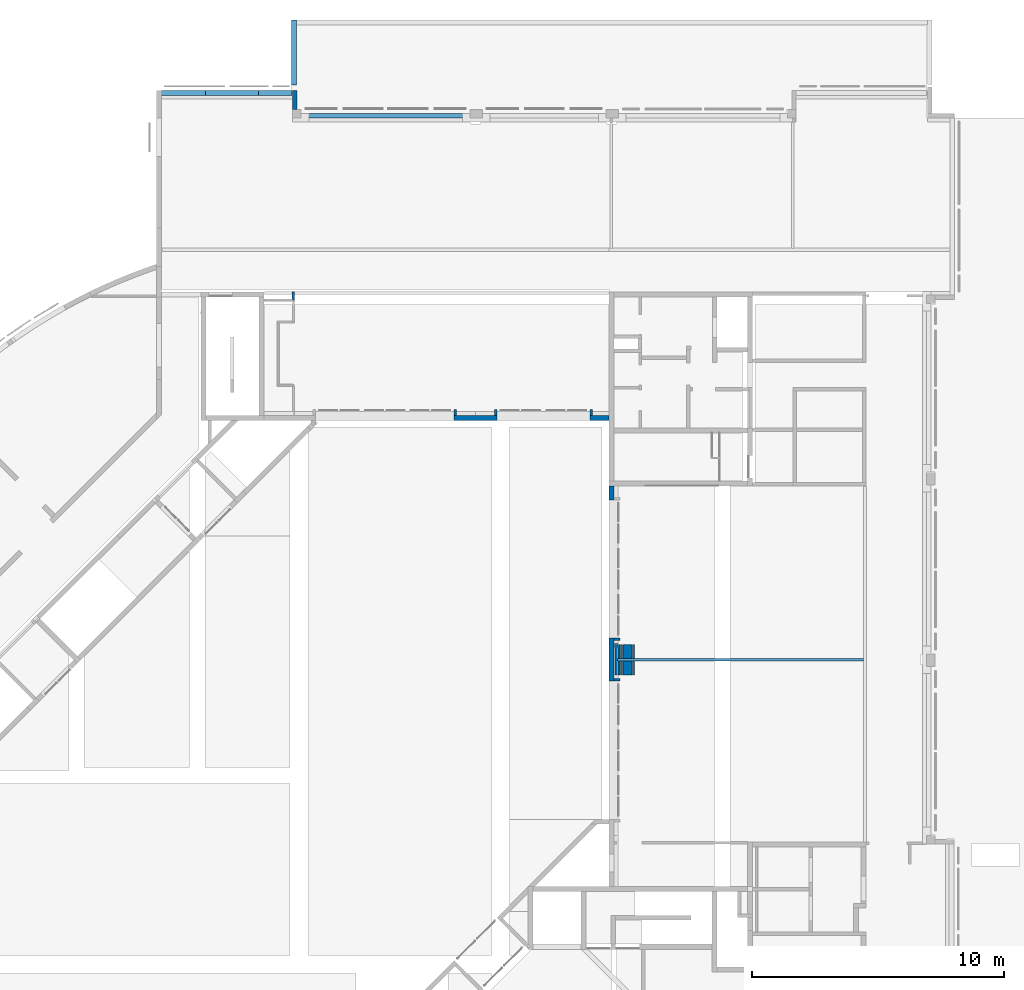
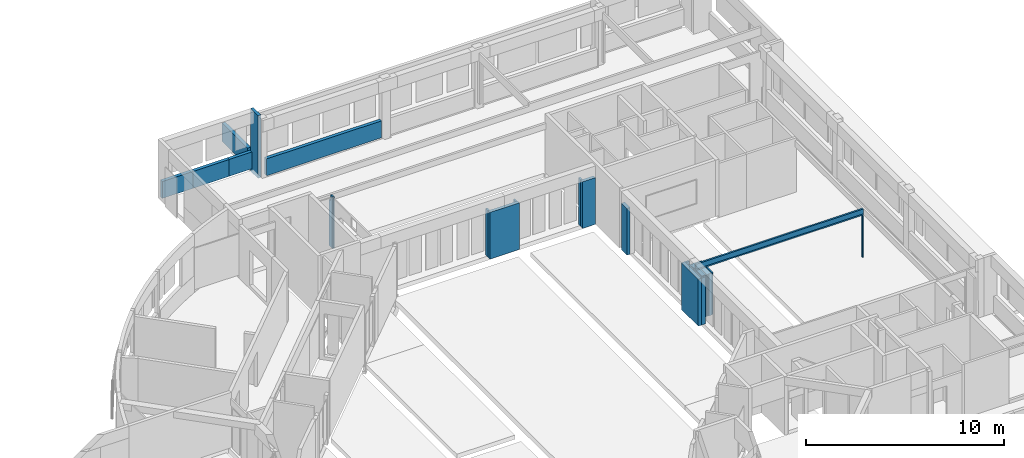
# One storey, part 20 of 30: 18 walls.
"""IFC4X3_ADD2 building model written with IfcOpenShell, lengths in millimetres."""

from ifc_helpers import new_model, si_unit, point, direction, frame, frame_2d, origin_with_axes, origin_2d_with_axis, place, context, subcontext, project, spatial, polyline, circle_curve, trimmed, segment, composite_curve, rectangle, outline, extrude, source, transform, mapped, material, type_object, type_shapes, element, save


model = new_model("IFC4X3_ADD2")

# Units and contexts
model_context = context("Model", 3, precision=1e-05, world=origin_with_axes(), true_north=direction((0.0, 1.0)))
body_context = subcontext(model_context, "Body", "Model", "MODEL_VIEW")
ifc_project = project(units=[si_unit("LENGTHUNIT", "METRE", prefix="MILLI"), si_unit("AREAUNIT", "SQUARE_METRE"), si_unit("VOLUMEUNIT", "CUBIC_METRE"), si_unit("PLANEANGLEUNIT", "RADIAN"), si_unit("TIMEUNIT", "SECOND"), si_unit("MASSUNIT", "GRAM")], contexts=[model_context])

# Site, building, storey
site_placement = place(None, origin_with_axes())
site = spatial("IfcSite", under=ifc_project, at=site_placement, Name="Site", CompositionType="ELEMENT")
building_placement = place(site_placement, origin_with_axes())
building = spatial("IfcBuilding", under=site, at=building_placement, Name="IFC Building Story")
storey_placement = place(building_placement, origin_with_axes())
storey = spatial("IfcBuildingStorey", under=building, at=storey_placement, Name="000", Elevation=0.0)

# Walls
ifc_material_1 = material(Name="BB_Beton_Bestaand")
wall_type_1 = type_object("IfcWallType", Name="BB_Beton_Bestaand 190", PredefinedType="NOTDEFINED", material=ifc_material_1)
wall_1_placement = place(storey_placement, origin_with_axes())
element("IfcWall", 1, at=wall_1_placement, inside=storey, type_object=wall_type_1, Name="Basic Wall:BB_XX_Wand uit beton, 190 mm", ObjectType="Basic Wall:BB_XX_Wand uit beton, 190 mm", PredefinedType="SOLIDWALL", context=body_context, shape_type="SweptSolid", body=[
    extrude(rectangle(XDim=1785.000000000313, YDim=189.9999999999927, at=origin_2d_with_axis()), frame((-29612.49999999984, 51600.0, -200.0), z_axis=(0.0, 0.0, 1.0), x_axis=(1.0, 0.0, 0.0)), (0.0, 0.0, 1.0), 1040.0),
])
wall_2_placement = place(storey_placement, origin_with_axes())
element("IfcWall", 2, at=wall_2_placement, inside=storey, type_object=wall_type_1, Name="Basic Wall:BB_XX_Wand uit beton, 190 mm", ObjectType="Basic Wall:BB_XX_Wand uit beton, 190 mm", PredefinedType="SOLIDWALL", context=body_context, shape_type="SweptSolid", body=[
    extrude(rectangle(XDim=6710.000000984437, YDim=189.9999999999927, at=origin_2d_with_axis()), frame((-21599.99999950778, 50700.0, -200.0), z_axis=(0.0, 0.0, 1.0), x_axis=(1.0, 0.0, 0.0)), (0.0, 0.0, 1.0), 1040.0),
])
wall_3_placement = place(storey_placement, origin_with_axes())
element("IfcWall", 3, at=wall_3_placement, inside=storey, type_object=wall_type_1, Name="Basic Wall:BB_XX_Wand uit beton, 190 mm", ObjectType="Basic Wall:BB_XX_Wand uit beton, 190 mm", PredefinedType="SOLIDWALL", context=body_context, shape_type="SweptSolid", body=[
    extrude(rectangle(XDim=1710.0, YDim=190.0, at=origin_2d_with_axis()), frame((-18000.0, 38699.9959341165, -200.0), z_axis=(0.0, 0.0, 1.0), x_axis=(1.0, 0.0, 0.0)), (0.0, 0.0, 1.0), 2880.0),
])
wall_4_placement = place(storey_placement, origin_with_axes())
element("IfcWall", 4, at=wall_4_placement, inside=storey, type_object=wall_type_1, Name="Basic Wall:BB_XX_Wand uit beton, 190 mm", ObjectType="Basic Wall:BB_XX_Wand uit beton, 190 mm", PredefinedType="SOLIDWALL", context=body_context, shape_type="SweptSolid", body=[
    extrude(rectangle(XDim=754.9959341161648, YDim=190.0, at=origin_2d_with_axis()), frame((-13077.50203294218, 38699.9959341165, -200.0), z_axis=(0.0, 0.0, 1.0), x_axis=(1.0, 0.0, 0.0)), (0.0, 0.0, 1.0), 2880.0),
])
wall_5_placement = place(storey_placement, origin_with_axes())
element("IfcWall", 5, at=wall_5_placement, inside=storey, type_object=wall_type_1, Name="Basic Wall:BB_XX_Wand uit beton, 190 mm", ObjectType="Basic Wall:BB_XX_Wand uit beton, 190 mm", PredefinedType="SOLIDWALL", context=body_context, shape_type="SweptSolid", body=[
    extrude(rectangle(XDim=554.9999999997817, YDim=190.0, at=frame_2d((0.0, 0.0), x_axis=(0.0, 1.0))), frame((-12600.0040658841, 35722.50000000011, -200.0), z_axis=(0.0, 0.0, 1.0), x_axis=(1.0, 0.0, 0.0)), (0.0, 0.0, 1.0), 2880.0),
])
wall_6_placement = place(storey_placement, origin_with_axes())
element("IfcWall", 6, at=wall_6_placement, inside=storey, type_object=wall_type_1, Name="Basic Wall:BB_XX_Wand uit beton, 190 mm", ObjectType="Basic Wall:BB_XX_Wand uit beton, 190 mm", PredefinedType="SOLIDWALL", context=body_context, shape_type="SweptSolid", body=[
    extrude(rectangle(XDim=1709.999999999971, YDim=190.0, at=frame_2d((0.0, 0.0), x_axis=(0.0, 1.0))), frame((-12600.0040658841, 29100.00000000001, -200.0), z_axis=(0.0, 0.0, 1.0), x_axis=(1.0, 0.0, 0.0)), (0.0, 0.0, 1.0), 2880.0),
])
wall_7_placement = place(storey_placement, origin_with_axes())
element("IfcWall", 7, at=wall_7_placement, inside=storey, type_object=wall_type_1, Name="Basic Wall:BB_XX_Wand uit beton, 190 mm", ObjectType="Basic Wall:BB_XX_Wand uit beton, 190 mm", PredefinedType="SOLIDWALL", context=body_context, shape_type="SweptSolid", body=[
    extrude(rectangle(XDim=2105.000000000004, YDim=189.9999999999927, at=origin_2d_with_axis()), frame((-27667.5, 51600.0, -200.0), z_axis=(0.0, 0.0, 1.0), x_axis=(1.0, 0.0, 0.0)), (0.0, 0.0, 1.0), 1040.0),
])
wall_8_placement = place(storey_placement, origin_with_axes())
element("IfcWall", 8, at=wall_8_placement, inside=storey, type_object=wall_type_1, Name="Basic Wall:BB_XX_Wand uit beton, 190 mm", ObjectType="Basic Wall:BB_XX_Wand uit beton, 190 mm", PredefinedType="SOLIDWALL", context=body_context, shape_type="SweptSolid", body=[
    extrude(rectangle(XDim=1319.999999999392, YDim=189.9999999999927, at=origin_2d_with_axis()), frame((-25955.0000000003, 51600.0, -200.0), z_axis=(0.0, 0.0, 1.0), x_axis=(1.0, 0.0, 0.0)), (0.0, 0.0, 1.0), 1040.0),
])
wall_9_placement = place(storey_placement, origin_with_axes())
element("IfcWall", 9, at=wall_9_placement, inside=storey, type_object=wall_type_1, Name="Basic Wall:BB_XX_Wand uit beton, 190 mm", ObjectType="Basic Wall:BB_XX_Wand uit beton, 190 mm", PredefinedType="SOLIDWALL", context=body_context, shape_type="SweptSolid", body=[
    extrude(rectangle(XDim=2574.931229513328, YDim=190.0, at=frame_2d((0.0, 0.0), x_axis=(0.0, 1.0))), frame((-25205.0, 53212.46561475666, -320.0), z_axis=(0.0, 0.0, 1.0), x_axis=(1.0, 0.0, 0.0)), (0.0, 0.0, 1.0), 1140.0),
])
wall_type_2 = type_object("IfcWallType", Name="BB_Beton_Bestaand 170", PredefinedType="NOTDEFINED", material=ifc_material_1)
wall_10_placement = place(storey_placement, origin_with_axes())
element("IfcWall", 10, at=wall_10_placement, inside=storey, type_object=wall_type_2, Name="Basic Wall:BB_XX_Wand uit beton, 170 mm", ObjectType="Basic Wall:BB_XX_Wand uit beton, 170 mm", PredefinedType="SOLIDWALL", context=body_context, shape_type="SweptSolid", body=[
    extrude(rectangle(XDim=750.0000000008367, YDim=169.9999999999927, at=frame_2d((0.0, 0.0), x_axis=(0.0, 1.0))), frame((-25175.0, 51319.99999999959, -460.0), z_axis=(0.0, 0.0, 1.0), x_axis=(1.0, 0.0, 0.0)), (0.0, 0.0, 1.0), 3860.0),
])
wall_type_3 = type_object("IfcWallType", Name="Basic Wall_BB_10.01.41#03_Gipskartonwand_43dB_MS100 _ 25.50.25_ 100 mm17", PredefinedType="NOTDEFINED")
shared_shape_1 = source(origin_with_axes(), body_context, "Body", "SweptSolid", [
    extrude(rectangle(XDim=240.000000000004, YDim=12.50000000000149, at=origin_2d_with_axis()), frame((120.0, 43.75000000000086, 0.0), z_axis=(0.0, 0.0, 1.0), x_axis=(1.0, 0.0, 0.0)), (0.0, 0.0, 1.0), 2880.0),
    extrude(rectangle(XDim=240.000000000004, YDim=12.50000000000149, at=origin_2d_with_axis()), frame((120.0, 31.24999999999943, 0.0), z_axis=(0.0, 0.0, 1.0), x_axis=(1.0, 0.0, 0.0)), (0.0, 0.0, 1.0), 2880.0),
    extrude(rectangle(XDim=240.000000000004, YDim=49.9999999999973, at=origin_2d_with_axis()), frame((119.999999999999, 0.0, 0.0), z_axis=(0.0, 0.0, 1.0), x_axis=(1.0, 0.0, 0.0)), (0.0, 0.0, 1.0), 2880.0),
    extrude(rectangle(XDim=240.000000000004, YDim=12.50000000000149, at=origin_2d_with_axis()), frame((120.0, -31.24999999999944, 0.0), z_axis=(0.0, 0.0, 1.0), x_axis=(1.0, 0.0, 0.0)), (0.0, 0.0, 1.0), 2880.0),
    extrude(rectangle(XDim=240.000000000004, YDim=12.49999999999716, at=origin_2d_with_axis()), frame((119.999999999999, -43.7499999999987, 0.0), z_axis=(0.0, 0.0, 1.0), x_axis=(1.0, 0.0, 0.0)), (0.0, 0.0, 1.0), 2880.0),
])
type_shapes(wall_type_3, [shared_shape_1])
wall_11_placement = place(storey_placement, frame((-12265.0040658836, 28295.0, -200.0), z_axis=(0.0, 0.0, 1.0), x_axis=(-1.0, 0.0, 0.0)))
element("IfcWall", 11, at=wall_11_placement, inside=storey, type_object=wall_type_3, Name="Basic Wall:BB_10.01.41#03_Gipskartonwand_43dB_MS100 / 25.50.25, 100 mm", ObjectType="Basic Wall:BB_10.01.41#03_Gipskartonwand_43dB_MS100 / 25.50.25, 100 mm", PredefinedType="PARTITIONING", context=body_context, shape_type="MappedRepresentation", body=[
    mapped(shared_shape_1, transform((0.0, 0.0, 0.0))),
])
wall_type_4 = type_object("IfcWallType", Name="Basic Wall_BB_10.01.41#03_Gipskartonwand_43dB_MS100 _ 25.50.25_ 100 mm19", PredefinedType="NOTDEFINED")
shared_shape_2 = source(origin_with_axes(), body_context, "Body", "SweptSolid", [
    extrude(rectangle(XDim=240.000000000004, YDim=12.49999999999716, at=origin_2d_with_axis()), frame((119.999999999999, -43.7499999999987, 0.0), z_axis=(0.0, 0.0, 1.0), x_axis=(1.0, 0.0, 0.0)), (0.0, 0.0, 1.0), 2880.0),
    extrude(rectangle(XDim=240.000000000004, YDim=12.50000000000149, at=origin_2d_with_axis()), frame((120.0, -31.24999999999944, 0.0), z_axis=(0.0, 0.0, 1.0), x_axis=(1.0, 0.0, 0.0)), (0.0, 0.0, 1.0), 2880.0),
    extrude(rectangle(XDim=240.000000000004, YDim=49.9999999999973, at=origin_2d_with_axis()), frame((119.999999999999, 0.0, 0.0), z_axis=(0.0, 0.0, 1.0), x_axis=(1.0, 0.0, 0.0)), (0.0, 0.0, 1.0), 2880.0),
    extrude(rectangle(XDim=240.000000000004, YDim=12.50000000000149, at=origin_2d_with_axis()), frame((120.0, 31.24999999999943, 0.0), z_axis=(0.0, 0.0, 1.0), x_axis=(1.0, 0.0, 0.0)), (0.0, 0.0, 1.0), 2880.0),
    extrude(rectangle(XDim=240.000000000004, YDim=12.50000000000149, at=origin_2d_with_axis()), frame((120.0, 43.75000000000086, 0.0), z_axis=(0.0, 0.0, 1.0), x_axis=(1.0, 0.0, 0.0)), (0.0, 0.0, 1.0), 2880.0),
])
type_shapes(wall_type_4, [shared_shape_2])
wall_12_placement = place(storey_placement, frame((-12265.0040658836, 29905.0, -200.0), z_axis=(0.0, 0.0, 1.0), x_axis=(-1.0, 0.0, 0.0)))
element("IfcWall", 12, at=wall_12_placement, inside=storey, type_object=wall_type_4, Name="Basic Wall:BB_10.01.41#03_Gipskartonwand_43dB_MS100 / 25.50.25, 100 mm", ObjectType="Basic Wall:BB_10.01.41#03_Gipskartonwand_43dB_MS100 / 25.50.25, 100 mm", PredefinedType="PARTITIONING", context=body_context, shape_type="MappedRepresentation", body=[
    mapped(shared_shape_2, transform((0.0, 0.0, 0.0))),
])
wall_type_5 = type_object("IfcWallType", Name="Basic Wall_BB_10.01.41#03_Gipskartonwand_43dB_MS100 _ 25.50.25_ 100 mm23", PredefinedType="NOTDEFINED")
shared_shape_3 = source(origin_with_axes(), body_context, "Body", "SweptSolid", [
    extrude(rectangle(XDim=240.000000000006, YDim=12.49999999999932, at=origin_2d_with_axis()), frame((119.999999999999, -43.7499999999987, 0.0), z_axis=(0.0, 0.0, 1.0), x_axis=(1.0, 0.0, 0.0)), (0.0, 0.0, 1.0), 2880.0),
    extrude(rectangle(XDim=240.000000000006, YDim=12.49999999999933, at=origin_2d_with_axis()), frame((120.0, -31.24999999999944, 0.0), z_axis=(0.0, 0.0, 1.0), x_axis=(1.0, 0.0, 0.0)), (0.0, 0.0, 1.0), 2880.0),
    extrude(rectangle(XDim=240.000000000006, YDim=50.0000000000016, at=origin_2d_with_axis()), frame((119.999999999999, 0.0, 0.0), z_axis=(0.0, 0.0, 1.0), x_axis=(1.0, 0.0, 0.0)), (0.0, 0.0, 1.0), 2880.0),
    extrude(rectangle(XDim=240.000000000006, YDim=12.49999999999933, at=origin_2d_with_axis()), frame((120.0, 31.24999999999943, 0.0), z_axis=(0.0, 0.0, 1.0), x_axis=(1.0, 0.0, 0.0)), (0.0, 0.0, 1.0), 2880.0),
    extrude(rectangle(XDim=240.000000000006, YDim=12.49999999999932, at=origin_2d_with_axis()), frame((120.0, 43.75000000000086, 0.0), z_axis=(0.0, 0.0, 1.0), x_axis=(1.0, 0.0, 0.0)), (0.0, 0.0, 1.0), 2880.0),
])
type_shapes(wall_type_5, [shared_shape_3])
wall_13_placement = place(storey_placement, frame((-18805.0, 39034.9959341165, -200.0), z_axis=(0.0, 0.0, 1.0), x_axis=(0.0, -1.0, 0.0)))
element("IfcWall", 13, at=wall_13_placement, inside=storey, type_object=wall_type_5, Name="Basic Wall:BB_10.01.41#03_Gipskartonwand_43dB_MS100 / 25.50.25, 100 mm", ObjectType="Basic Wall:BB_10.01.41#03_Gipskartonwand_43dB_MS100 / 25.50.25, 100 mm", PredefinedType="PARTITIONING", context=body_context, shape_type="MappedRepresentation", body=[
    mapped(shared_shape_3, transform((0.0, 0.0, 0.0))),
])
wall_type_6 = type_object("IfcWallType", Name="Basic Wall_BB_10.01.41#03_Gipskartonwand_43dB_MS100 _ 25.50.25_ 100 mm27", PredefinedType="NOTDEFINED")
shared_shape_4 = source(origin_with_axes(), body_context, "Body", "SweptSolid", [
    extrude(rectangle(XDim=240.000000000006, YDim=12.49999999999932, at=origin_2d_with_axis()), frame((119.999999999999, -43.7499999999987, 0.0), z_axis=(0.0, 0.0, 1.0), x_axis=(1.0, 0.0, 0.0)), (0.0, 0.0, 1.0), 2880.0),
    extrude(rectangle(XDim=240.000000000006, YDim=12.49999999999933, at=origin_2d_with_axis()), frame((120.0, -31.24999999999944, 0.0), z_axis=(0.0, 0.0, 1.0), x_axis=(1.0, 0.0, 0.0)), (0.0, 0.0, 1.0), 2880.0),
    extrude(rectangle(XDim=240.000000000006, YDim=50.0000000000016, at=origin_2d_with_axis()), frame((119.999999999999, 0.0, 0.0), z_axis=(0.0, 0.0, 1.0), x_axis=(1.0, 0.0, 0.0)), (0.0, 0.0, 1.0), 2880.0),
    extrude(rectangle(XDim=240.000000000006, YDim=12.49999999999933, at=origin_2d_with_axis()), frame((120.0, 31.24999999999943, 0.0), z_axis=(0.0, 0.0, 1.0), x_axis=(1.0, 0.0, 0.0)), (0.0, 0.0, 1.0), 2880.0),
    extrude(rectangle(XDim=240.000000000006, YDim=12.49999999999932, at=origin_2d_with_axis()), frame((120.0, 43.75000000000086, 0.0), z_axis=(0.0, 0.0, 1.0), x_axis=(1.0, 0.0, 0.0)), (0.0, 0.0, 1.0), 2880.0),
])
type_shapes(wall_type_6, [shared_shape_4])
wall_14_placement = place(storey_placement, frame((-13405.0, 39034.9959341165, -200.0), z_axis=(0.0, 0.0, 1.0), x_axis=(0.0, -1.0, 0.0)))
element("IfcWall", 14, at=wall_14_placement, inside=storey, type_object=wall_type_6, Name="Basic Wall:BB_10.01.41#03_Gipskartonwand_43dB_MS100 / 25.50.25, 100 mm", ObjectType="Basic Wall:BB_10.01.41#03_Gipskartonwand_43dB_MS100 / 25.50.25, 100 mm", PredefinedType="PARTITIONING", context=body_context, shape_type="MappedRepresentation", body=[
    mapped(shared_shape_4, transform((0.0, 0.0, 0.0))),
])
wall_type_7 = type_object("IfcWallType", Name="Basic Wall_BB_10.01.41#03_Gipskartonwand_43dB_MS100 _ 25.50.25_ 100 mm29", PredefinedType="NOTDEFINED")
shared_shape_5 = source(origin_with_axes(), body_context, "Body", "SweptSolid", [
    extrude(rectangle(XDim=240.000000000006, YDim=12.49999999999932, at=origin_2d_with_axis()), frame((120.0, 43.75000000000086, 0.0), z_axis=(0.0, 0.0, 1.0), x_axis=(1.0, 0.0, 0.0)), (0.0, 0.0, 1.0), 2880.0),
    extrude(rectangle(XDim=240.000000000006, YDim=12.49999999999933, at=origin_2d_with_axis()), frame((120.0, 31.24999999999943, 0.0), z_axis=(0.0, 0.0, 1.0), x_axis=(1.0, 0.0, 0.0)), (0.0, 0.0, 1.0), 2880.0),
    extrude(rectangle(XDim=240.000000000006, YDim=50.0000000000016, at=origin_2d_with_axis()), frame((119.999999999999, 0.0, 0.0), z_axis=(0.0, 0.0, 1.0), x_axis=(1.0, 0.0, 0.0)), (0.0, 0.0, 1.0), 2880.0),
    extrude(rectangle(XDim=240.000000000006, YDim=12.49999999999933, at=origin_2d_with_axis()), frame((120.0, -31.24999999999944, 0.0), z_axis=(0.0, 0.0, 1.0), x_axis=(1.0, 0.0, 0.0)), (0.0, 0.0, 1.0), 2880.0),
    extrude(rectangle(XDim=240.000000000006, YDim=12.49999999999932, at=origin_2d_with_axis()), frame((119.999999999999, -43.7499999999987, 0.0), z_axis=(0.0, 0.0, 1.0), x_axis=(1.0, 0.0, 0.0)), (0.0, 0.0, 1.0), 2880.0),
])
type_shapes(wall_type_7, [shared_shape_5])
wall_15_placement = place(storey_placement, frame((-17195.0, 39034.9959341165, -200.0), z_axis=(0.0, 0.0, 1.0), x_axis=(0.0, -1.0, 0.0)))
element("IfcWall", 15, at=wall_15_placement, inside=storey, type_object=wall_type_7, Name="Basic Wall:BB_10.01.41#03_Gipskartonwand_43dB_MS100 / 25.50.25, 100 mm", ObjectType="Basic Wall:BB_10.01.41#03_Gipskartonwand_43dB_MS100 / 25.50.25, 100 mm", PredefinedType="PARTITIONING", context=body_context, shape_type="MappedRepresentation", body=[
    mapped(shared_shape_5, transform((0.0, 0.0, 0.0))),
])
ifc_material_2 = material(Name="BB_MDF")
wall_type_8 = type_object("IfcWallType", Name="BB_10.02.31_Verrolbare binnenwand_ lokaal K.00.503_ 20200211_GMO_XX_Geen", PredefinedType="NOTDEFINED")
shared_shape_6 = source(origin_with_axes(), body_context, "Body", "SweptSolid", [
    extrude(outline(composite_curve([segment(polyline([(43.99999999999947, 602.4999999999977), (43.99999999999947, -602.5000000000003)]), True, "CONTINUOUS"), segment(polyline([(43.99999999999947, -602.5000000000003), (24.00000000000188, -602.5000000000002)]), True, "CONTINUOUS"), segment(trimmed(circle_curve(frame_2d((3.254285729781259e-12, -586.8461538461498), x_axis=(1.0, 0.0)), 28.65384615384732), [point((24.00000000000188, -602.5000000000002))], [point((-23.99999999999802, -602.4999999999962))], False, "CARTESIAN"), True, "CONTINUOUS"), segment(polyline([(-23.99999999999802, -602.4999999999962), (-44.0, -602.5000000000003)]), True, "CONTINUOUS"), segment(polyline([(-44.0, -602.5000000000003), (-44.0, 602.4999999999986)]), True, "CONTINUOUS"), segment(polyline([(-44.0, 602.4999999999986), (-24.0, 602.4999999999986)]), True, "CONTINUOUS"), segment(trimmed(circle_curve(frame_2d((-2.629008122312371e-12, 618.1538461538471), x_axis=(1.0, 0.0)), 28.6538461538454), [point((-24.0, 602.4999999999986))], [point((23.99999999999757, 602.5000000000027))], True, "CARTESIAN"), True, "CONTINUOUS"), segment(polyline([(23.99999999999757, 602.5000000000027), (43.99999999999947, 602.4999999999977)]), True, "CONTINUOUS")], self_intersect=False)), frame((69.00000000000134, 615.4999999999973, 20.0), z_axis=(0.0, 0.0, 1.0), x_axis=(1.0, 0.0, 0.0)), (0.0, 0.0, 1.0), 2580.0),
    extrude(outline(polyline([(64.0, 84.0), (64.0, -76.0000000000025), (48.0, -75.99999999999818), (48.0, 67.99999999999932), (-48.0, 67.99999999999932), (-48.0, -75.99999999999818), (-64.00000000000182, -75.99999999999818), (-64.00000000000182, 84.0), (64.0, 84.0)])), frame((69.0, 1171.999999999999, 20.0), z_axis=(0.0, 0.0, 1.0), x_axis=(1.0, 0.0, 0.0)), (0.0, 0.0, 1.0), 2580.0),
    extrude(outline(polyline([(34.0, -44.00000000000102), (-26.0, -44.00000000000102), (-26.0, -28.0), (18.0, -28.0), (18.0, 28.0), (-26.0, 28.0), (-26.0, 44.0), (34.0, 44.0), (34.0, -44.00000000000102)])), frame((9851.0, 615.249999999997, 20.0), z_axis=(0.0, 0.0, 1.0), x_axis=(1.0, 0.0, 0.0)), (0.0, 0.0, 1.0), 2580.0),
    extrude(rectangle(XDim=9880.0, YDim=99.99999999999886, at=origin_2d_with_axis()), frame((4945.0, 615.2500000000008, 2620.0), z_axis=(0.0, 0.0, 1.0), x_axis=(1.0, 0.0, 0.0)), (0.0, 0.0, 1.0), 80.0),
    extrude(outline(composite_curve([segment(polyline([(43.99999999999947, 602.4999999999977), (43.99999999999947, -602.5000000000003)]), True, "CONTINUOUS"), segment(polyline([(43.99999999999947, -602.5000000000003), (24.00000000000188, -602.5000000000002)]), True, "CONTINUOUS"), segment(trimmed(circle_curve(frame_2d((3.254285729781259e-12, -586.8461538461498), x_axis=(1.0, 0.0)), 28.65384615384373), [point((24.00000000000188, -602.5000000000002))], [point((-23.99999999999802, -602.4999999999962))], False, "CARTESIAN"), True, "CONTINUOUS"), segment(polyline([(-23.99999999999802, -602.4999999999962), (-44.0, -602.5000000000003)]), True, "CONTINUOUS"), segment(polyline([(-44.0, -602.5000000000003), (-44.0, 602.4999999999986)]), True, "CONTINUOUS"), segment(polyline([(-44.0, 602.4999999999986), (-24.0, 602.4999999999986)]), True, "CONTINUOUS"), segment(trimmed(circle_curve(frame_2d((-2.629008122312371e-12, 618.1538461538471), x_axis=(1.0, 0.0)), 28.65384615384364), [point((-24.0, 602.4999999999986))], [point((23.99999999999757, 602.5000000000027))], True, "CARTESIAN"), True, "CONTINUOUS"), segment(polyline([(23.99999999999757, 602.5000000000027), (43.99999999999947, 602.4999999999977)]), True, "CONTINUOUS")], self_intersect=False)), frame((183.9999999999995, 615.5000000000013, 20.0), z_axis=(0.0, 0.0, 1.0), x_axis=(1.0, 0.0, 0.0)), (0.0, 0.0, 1.0), 2580.0),
    extrude(outline(composite_curve([segment(polyline([(43.99999999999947, 602.4999999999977), (43.99999999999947, -602.5000000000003)]), True, "CONTINUOUS"), segment(polyline([(43.99999999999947, -602.5000000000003), (24.00000000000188, -602.5000000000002)]), True, "CONTINUOUS"), segment(trimmed(circle_curve(frame_2d((3.254285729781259e-12, -586.8461538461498), x_axis=(1.0, 0.0)), 28.65384615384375), [point((24.00000000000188, -602.5000000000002))], [point((-23.99999999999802, -602.4999999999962))], False, "CARTESIAN"), True, "CONTINUOUS"), segment(polyline([(-23.99999999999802, -602.4999999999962), (-44.0, -602.5000000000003)]), True, "CONTINUOUS"), segment(polyline([(-44.0, -602.5000000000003), (-44.0, 602.4999999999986)]), True, "CONTINUOUS"), segment(polyline([(-44.0, 602.4999999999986), (-24.0, 602.4999999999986)]), True, "CONTINUOUS"), segment(trimmed(circle_curve(frame_2d((-2.629008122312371e-12, 618.1538461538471), x_axis=(1.0, 0.0)), 28.65384615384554), [point((-24.0, 602.4999999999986))], [point((23.99999999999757, 602.5000000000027))], True, "CARTESIAN"), True, "CONTINUOUS"), segment(polyline([(23.99999999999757, 602.5000000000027), (43.99999999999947, 602.4999999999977)]), True, "CONTINUOUS")], self_intersect=False)), frame((278.9999999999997, 615.5000000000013, 20.0), z_axis=(0.0, 0.0, 1.0), x_axis=(1.0, 0.0, 0.0)), (0.0, 0.0, 1.0), 2580.0),
    extrude(outline(composite_curve([segment(polyline([(43.99999999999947, 602.4999999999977), (43.99999999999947, -602.5000000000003)]), True, "CONTINUOUS"), segment(polyline([(43.99999999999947, -602.5000000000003), (24.00000000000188, -602.5000000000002)]), True, "CONTINUOUS"), segment(trimmed(circle_curve(frame_2d((3.254285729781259e-12, -586.8461538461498), x_axis=(1.0, 0.0)), 28.65384615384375), [point((24.00000000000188, -602.5000000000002))], [point((-23.99999999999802, -602.4999999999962))], False, "CARTESIAN"), True, "CONTINUOUS"), segment(polyline([(-23.99999999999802, -602.4999999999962), (-44.0, -602.5000000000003)]), True, "CONTINUOUS"), segment(polyline([(-44.0, -602.5000000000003), (-44.0, 602.4999999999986)]), True, "CONTINUOUS"), segment(polyline([(-44.0, 602.4999999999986), (-24.0, 602.4999999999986)]), True, "CONTINUOUS"), segment(trimmed(circle_curve(frame_2d((-2.629008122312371e-12, 618.1538461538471), x_axis=(1.0, 0.0)), 28.65384615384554), [point((-24.0, 602.4999999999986))], [point((23.99999999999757, 602.5000000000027))], True, "CARTESIAN"), True, "CONTINUOUS"), segment(polyline([(23.99999999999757, 602.5000000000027), (43.99999999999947, 602.4999999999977)]), True, "CONTINUOUS")], self_intersect=False)), frame((373.9999999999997, 615.5000000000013, 20.0), z_axis=(0.0, 0.0, 1.0), x_axis=(1.0, 0.0, 0.0)), (0.0, 0.0, 1.0), 2580.0),
    extrude(outline(composite_curve([segment(polyline([(43.99999999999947, 602.4999999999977), (43.99999999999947, -602.5000000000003)]), True, "CONTINUOUS"), segment(polyline([(43.99999999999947, -602.5000000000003), (24.00000000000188, -602.5000000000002)]), True, "CONTINUOUS"), segment(trimmed(circle_curve(frame_2d((3.254285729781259e-12, -586.8461538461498), x_axis=(1.0, 0.0)), 28.65384615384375), [point((24.00000000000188, -602.5000000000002))], [point((-23.99999999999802, -602.4999999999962))], False, "CARTESIAN"), True, "CONTINUOUS"), segment(polyline([(-23.99999999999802, -602.4999999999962), (-44.0, -602.5000000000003)]), True, "CONTINUOUS"), segment(polyline([(-44.0, -602.5000000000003), (-44.0, 602.4999999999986)]), True, "CONTINUOUS"), segment(polyline([(-44.0, 602.4999999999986), (-24.0, 602.4999999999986)]), True, "CONTINUOUS"), segment(trimmed(circle_curve(frame_2d((-2.629008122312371e-12, 618.1538461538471), x_axis=(1.0, 0.0)), 28.65384615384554), [point((-24.0, 602.4999999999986))], [point((23.99999999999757, 602.5000000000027))], True, "CARTESIAN"), True, "CONTINUOUS"), segment(polyline([(23.99999999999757, 602.5000000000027), (43.99999999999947, 602.4999999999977)]), True, "CONTINUOUS")], self_intersect=False)), frame((468.9999999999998, 615.5000000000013, 20.0), z_axis=(0.0, 0.0, 1.0), x_axis=(1.0, 0.0, 0.0)), (0.0, 0.0, 1.0), 2580.0),
    extrude(outline(composite_curve([segment(polyline([(43.99999999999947, 602.4999999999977), (43.99999999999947, -602.5000000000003)]), True, "CONTINUOUS"), segment(polyline([(43.99999999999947, -602.5000000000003), (24.00000000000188, -602.5000000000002)]), True, "CONTINUOUS"), segment(trimmed(circle_curve(frame_2d((3.254285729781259e-12, -586.8461538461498), x_axis=(1.0, 0.0)), 28.65384615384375), [point((24.00000000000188, -602.5000000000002))], [point((-23.99999999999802, -602.4999999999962))], False, "CARTESIAN"), True, "CONTINUOUS"), segment(polyline([(-23.99999999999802, -602.4999999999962), (-44.0, -602.5000000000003)]), True, "CONTINUOUS"), segment(polyline([(-44.0, -602.5000000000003), (-44.0, 602.4999999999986)]), True, "CONTINUOUS"), segment(polyline([(-44.0, 602.4999999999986), (-24.0, 602.4999999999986)]), True, "CONTINUOUS"), segment(trimmed(circle_curve(frame_2d((-2.629008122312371e-12, 618.1538461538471), x_axis=(1.0, 0.0)), 28.65384615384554), [point((-24.0, 602.4999999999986))], [point((23.99999999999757, 602.5000000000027))], True, "CARTESIAN"), True, "CONTINUOUS"), segment(polyline([(23.99999999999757, 602.5000000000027), (43.99999999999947, 602.4999999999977)]), True, "CONTINUOUS")], self_intersect=False)), frame((563.9999999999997, 615.5000000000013, 20.0), z_axis=(0.0, 0.0, 1.0), x_axis=(1.0, 0.0, 0.0)), (0.0, 0.0, 1.0), 2580.0),
    extrude(outline(composite_curve([segment(polyline([(43.99999999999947, 602.4999999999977), (43.99999999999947, -602.5000000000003)]), True, "CONTINUOUS"), segment(polyline([(43.99999999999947, -602.5000000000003), (24.00000000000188, -602.5000000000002)]), True, "CONTINUOUS"), segment(trimmed(circle_curve(frame_2d((3.254285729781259e-12, -586.8461538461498), x_axis=(1.0, 0.0)), 28.65384615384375), [point((24.00000000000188, -602.5000000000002))], [point((-23.99999999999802, -602.4999999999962))], False, "CARTESIAN"), True, "CONTINUOUS"), segment(polyline([(-23.99999999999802, -602.4999999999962), (-44.0, -602.5000000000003)]), True, "CONTINUOUS"), segment(polyline([(-44.0, -602.5000000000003), (-44.0, 602.4999999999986)]), True, "CONTINUOUS"), segment(polyline([(-44.0, 602.4999999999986), (-24.0, 602.4999999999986)]), True, "CONTINUOUS"), segment(trimmed(circle_curve(frame_2d((-2.629008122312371e-12, 618.1538461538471), x_axis=(1.0, 0.0)), 28.65384615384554), [point((-24.0, 602.4999999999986))], [point((23.99999999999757, 602.5000000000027))], True, "CARTESIAN"), True, "CONTINUOUS"), segment(polyline([(23.99999999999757, 602.5000000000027), (43.99999999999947, 602.4999999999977)]), True, "CONTINUOUS")], self_intersect=False)), frame((658.9999999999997, 615.5000000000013, 20.0), z_axis=(0.0, 0.0, 1.0), x_axis=(1.0, 0.0, 0.0)), (0.0, 0.0, 1.0), 2580.0),
    extrude(outline(composite_curve([segment(polyline([(43.99999999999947, 602.4999999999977), (43.99999999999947, -602.5000000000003)]), True, "CONTINUOUS"), segment(polyline([(43.99999999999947, -602.5000000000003), (24.00000000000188, -602.5000000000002)]), True, "CONTINUOUS"), segment(trimmed(circle_curve(frame_2d((3.254285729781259e-12, -586.8461538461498), x_axis=(1.0, 0.0)), 28.65384615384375), [point((24.00000000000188, -602.5000000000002))], [point((-23.99999999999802, -602.4999999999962))], False, "CARTESIAN"), True, "CONTINUOUS"), segment(polyline([(-23.99999999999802, -602.4999999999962), (-44.0, -602.5000000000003)]), True, "CONTINUOUS"), segment(polyline([(-44.0, -602.5000000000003), (-44.0, 602.4999999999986)]), True, "CONTINUOUS"), segment(polyline([(-44.0, 602.4999999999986), (-24.0, 602.4999999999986)]), True, "CONTINUOUS"), segment(trimmed(circle_curve(frame_2d((-2.629008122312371e-12, 618.1538461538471), x_axis=(1.0, 0.0)), 28.65384615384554), [point((-24.0, 602.4999999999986))], [point((23.99999999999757, 602.5000000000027))], True, "CARTESIAN"), True, "CONTINUOUS"), segment(polyline([(23.99999999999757, 602.5000000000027), (43.99999999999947, 602.4999999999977)]), True, "CONTINUOUS")], self_intersect=False)), frame((753.9999999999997, 615.5000000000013, 20.0), z_axis=(0.0, 0.0, 1.0), x_axis=(1.0, 0.0, 0.0)), (0.0, 0.0, 1.0), 2580.0),
])
type_shapes(wall_type_8, [shared_shape_6])
wall_16_placement = place(storey_placement, frame((-12480.0040658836, 28484.7500000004, 0.0), z_axis=(0.0, 0.0, 1.0), x_axis=(1.0, 0.0, 0.0)))
element("IfcWall", 16, at=wall_16_placement, inside=storey, type_object=wall_type_8, material=ifc_material_2, Name="BB_10.02.31_Verrolbare binnenwand, lokaal K.00.503, 20200211_GMO:XX_Geen", ObjectType="BB_10.02.31_Verrolbare binnenwand, lokaal K.00.503, 20200211_GMO:XX_Geen", PredefinedType="MOVABLE", context=body_context, shape_type="MappedRepresentation", body=[
    mapped(shared_shape_6, transform((0.0, 0.0, 0.0))),
])
wall_type_9 = type_object("IfcWallType", Name="Basic Wall_BB_10.01.41#01_Gipskartonwand_MS100 _ 25.50.25_ 100 mm13", PredefinedType="NOTDEFINED")
shared_shape_7 = source(origin_with_axes(), body_context, "Body", "SweptSolid", [
    extrude(rectangle(XDim=9760.00406588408, YDim=12.50000000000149, at=origin_2d_with_axis()), frame((4880.00203294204, 43.750000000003, 0.0), z_axis=(0.0, 0.0, 1.0), x_axis=(1.0, 0.0, 0.0)), (0.0, 0.0, 1.0), 299.999999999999),
    extrude(rectangle(XDim=9760.00406588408, YDim=12.50000000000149, at=origin_2d_with_axis()), frame((4880.00203294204, 31.25000000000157, 0.0), z_axis=(0.0, 0.0, 1.0), x_axis=(1.0, 0.0, 0.0)), (0.0, 0.0, 1.0), 299.999999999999),
    extrude(rectangle(XDim=9760.00406588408, YDim=49.9999999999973, at=origin_2d_with_axis()), frame((4880.00203294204, -2.149391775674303e-12, 0.0), z_axis=(0.0, 0.0, 1.0), x_axis=(1.0, 0.0, 0.0)), (0.0, 0.0, 1.0), 299.999999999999),
    extrude(rectangle(XDim=9760.00406588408, YDim=12.50000000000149, at=origin_2d_with_axis()), frame((4880.00203294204, -31.24999999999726, 0.0), z_axis=(0.0, 0.0, 1.0), x_axis=(1.0, 0.0, 0.0)), (0.0, 0.0, 1.0), 299.999999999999),
    extrude(rectangle(XDim=9760.00406588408, YDim=12.49999999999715, at=origin_2d_with_axis()), frame((4880.00203294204, -43.74999999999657, 0.0), z_axis=(0.0, 0.0, 1.0), x_axis=(1.0, 0.0, 0.0)), (0.0, 0.0, 1.0), 299.999999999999),
])
type_shapes(wall_type_9, [shared_shape_7])
wall_17_placement = place(storey_placement, frame((-12355.0040658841, 29100.0, 2700.0), z_axis=(0.0, 0.0, 1.0), x_axis=(1.0, 0.0, 0.0)))
element("IfcWall", 17, at=wall_17_placement, inside=storey, type_object=wall_type_9, Name="Basic Wall:BB_10.01.41#01_Gipskartonwand_MS100 / 25.50.25, 100 mm", ObjectType="Basic Wall:BB_10.01.41#01_Gipskartonwand_MS100 / 25.50.25, 100 mm", PredefinedType="PARTITIONING", context=body_context, shape_type="MappedRepresentation", body=[
    mapped(shared_shape_7, transform((0.0, 0.0, 0.0))),
])
wall_type_10 = type_object("IfcWallType", Name="Basic Wall_BB_10.01.41#21_Gipskartonwand_EI60_43dB_MS100 _ 25.50.25_ 100 mm19", PredefinedType="NOTDEFINED")
shared_shape_8 = source(origin_with_axes(), body_context, "Body", "SweptSolid", [
    extrude(outline(polyline([(-166.666666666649, 2013.333333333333), (208.3333333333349, 2013.333333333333), (208.3333333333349, -1186.666666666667), (-41.66666666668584, -1186.666666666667), (-41.66666666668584, -826.6666666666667), (-166.666666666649, -826.6666666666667), (-166.666666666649, 2013.333333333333)])), frame((166.666666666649, 37.4999999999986, 2013.333333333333), z_axis=(0.0, 1.0, 0.0), x_axis=(1.0, 0.0, 0.0)), (0.0, 0.0, 1.0), 12.50000000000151),
    extrude(outline(polyline([(-166.666666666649, 2013.333333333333), (208.3333333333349, 2013.333333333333), (208.3333333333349, -1186.666666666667), (-41.66666666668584, -1186.666666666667), (-41.66666666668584, -826.6666666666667), (-166.666666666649, -826.6666666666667), (-166.666666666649, 2013.333333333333)])), frame((166.666666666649, 25.0, 2013.333333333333), z_axis=(0.0, 1.0, 0.0), x_axis=(1.0, 0.0, 0.0)), (0.0, 0.0, 1.0), 12.5000000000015),
    extrude(outline(polyline([(-149.9999999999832, 2013.333333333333), (175.0000000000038, 2013.333333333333), (175.0000000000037, -1186.666666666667), (-25.00000000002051, -1186.666666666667), (-25.00000000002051, -826.6666666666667), (-149.9999999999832, -826.6666666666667), (-149.9999999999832, 2013.333333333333)])), frame((149.9999999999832, -25.0, 2013.333333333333), z_axis=(0.0, 1.0, 0.0), x_axis=(1.0, 0.0, 0.0)), (0.0, 0.0, 1.0), 49.9999999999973),
    extrude(outline(polyline([(-145.8333333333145, 2013.333333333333), (166.6666666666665, 2013.333333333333), (166.6666666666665, -1186.666666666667), (-20.83333333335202, -1186.666666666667), (-20.83333333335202, -826.6666666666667), (-145.8333333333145, -826.6666666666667), (-145.8333333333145, 2013.333333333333)])), frame((145.8333333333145, -37.5000000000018, 2013.333333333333), z_axis=(0.0, 1.0, 0.0), x_axis=(1.0, 0.0, 0.0)), (0.0, 0.0, 1.0), 12.5000000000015),
    extrude(outline(polyline([(-141.6666666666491, 2013.333333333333), (158.3333333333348, 2013.333333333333), (158.3333333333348, -1186.666666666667), (-16.66666666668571, -1186.666666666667), (-16.66666666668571, -826.6666666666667), (-141.6666666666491, -826.6666666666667), (-141.6666666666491, 2013.333333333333)])), frame((141.6666666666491, -50.0, 2013.333333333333), z_axis=(0.0, 1.0, 0.0), x_axis=(1.0, 0.0, 0.0)), (0.0, 0.0, 1.0), 12.49999999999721),
])
type_shapes(wall_type_10, [shared_shape_8])
wall_18_placement = place(storey_placement, frame((-25235.0, 43715.0, -200.0), z_axis=(0.0, 0.0, 1.0), x_axis=(0.0, -1.0, 0.0)))
element("IfcWall", 18, at=wall_18_placement, inside=storey, type_object=wall_type_10, Name="Basic Wall:BB_10.01.41#21_Gipskartonwand_EI60_43dB_MS100 / 25.50.25, 100 mm", ObjectType="Basic Wall:BB_10.01.41#21_Gipskartonwand_EI60_43dB_MS100 / 25.50.25, 100 mm", PredefinedType="PARTITIONING", context=body_context, shape_type="MappedRepresentation", body=[
    mapped(shared_shape_8, transform((0.0, 0.0, 0.0))),
])

save(model, "model.ifc")
